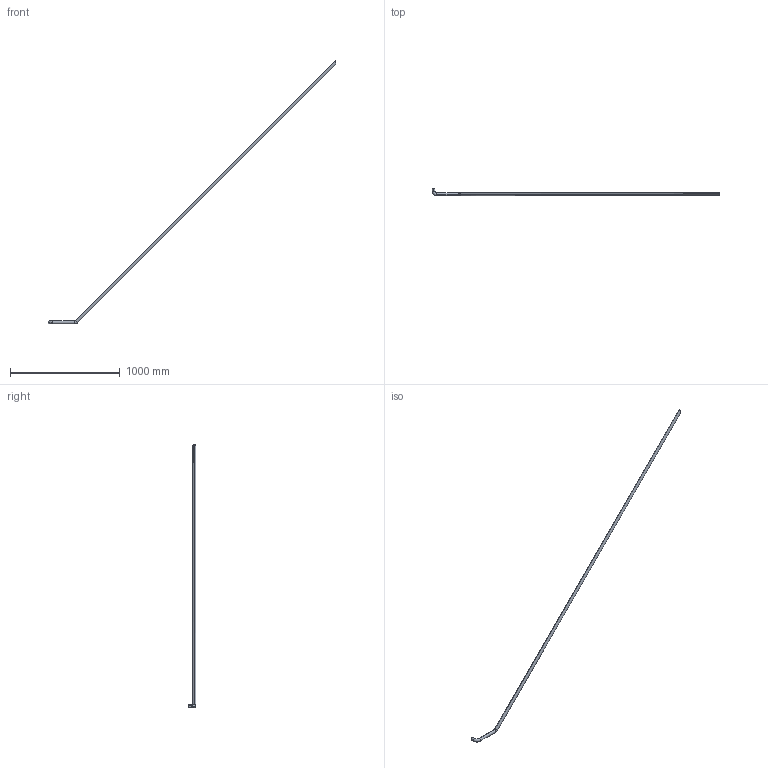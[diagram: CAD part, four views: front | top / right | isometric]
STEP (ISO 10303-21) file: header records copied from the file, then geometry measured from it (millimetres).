
FILE_DESCRIPTION (( 'STEP AP214' ), '1' );
FILE_NAME ('CCJ029-REP.326 - LISSE ESCALIER INFERIEUR-RAS SYM.STEP', '2025-04-17T08:06:03', ( '' ), ( '' ), 'SwSTEP 2.0', 'SolidWorks 2021', '' );
FILE_SCHEMA (( 'AUTOMOTIVE_DESIGN' ));
Length unit declared in the file: millimetre
Products named in the file (1): CCJ029-REP.326 - LISSE ESCALIER INFERIEUR-RAS SYM
Bounding box: 2621.1 x 70.45 x 2402.12 mm (x, y, z)
Volume: 645711.6 mm3; surface area: 561890.3 mm2
Topology: 1 solids, 1 shells, 22 faces, 52 edges, 32 vertices
Faces by surface type: cylinder 12, torus 8, plane 2
Entity records: 686 total; most frequent: DIRECTION 130, CARTESIAN_POINT 119, ORIENTED_EDGE 104, AXIS2_PLACEMENT_3D 59, EDGE_CURVE 52, CIRCLE 36, VERTEX_POINT 32, EDGE_LOOP 24
